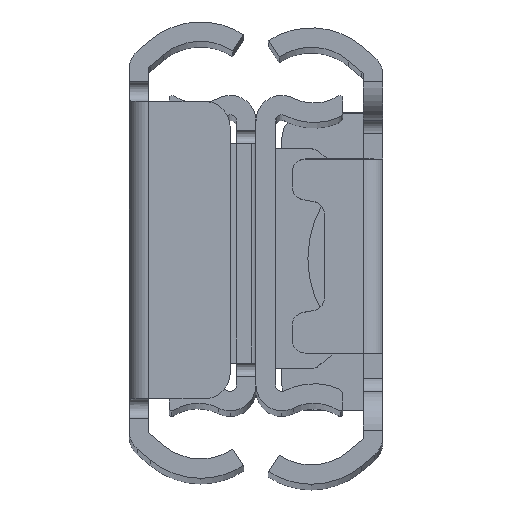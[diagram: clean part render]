
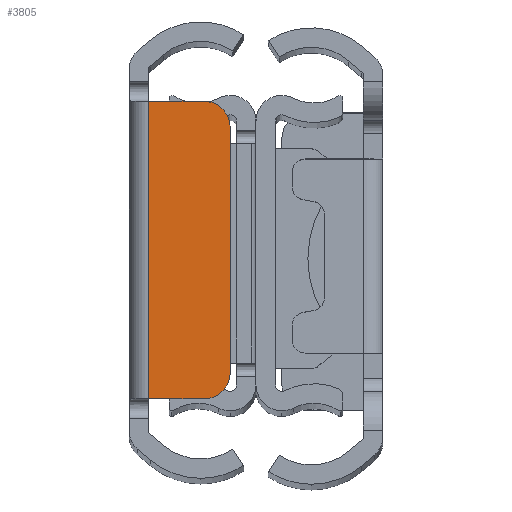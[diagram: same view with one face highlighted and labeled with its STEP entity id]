
A CAD part, top view. The second image highlights one B-rep face of the part: STEP entity #3805.
In plain terms, the highlighted planar face has unit normal (0, 0, 1) as drawn and (0, 0, -1) by its records, which use the part's own axes.
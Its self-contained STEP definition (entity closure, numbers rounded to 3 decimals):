
#42 = DIRECTION ( 'NONE',  ( 0., -1., 0. ) ) ;
#134 = ORIENTED_EDGE ( 'NONE', *, *, #3453, .F. ) ;
#241 = ORIENTED_EDGE ( 'NONE', *, *, #649, .F. ) ;
#295 = EDGE_CURVE ( 'NONE', #2466, #2607, #1052, .T. ) ;
#399 = CARTESIAN_POINT ( 'NONE',  ( 213.8, -11.5, 254. ) ) ;
#404 = CARTESIAN_POINT ( 'NONE',  ( 211.8, -9.5, 254. ) ) ;
#474 = DIRECTION ( 'NONE',  ( 0., 1., 0. ) ) ;
#521 = CARTESIAN_POINT ( 'NONE',  ( 213.8, 11.5, 254. ) ) ;
#649 = EDGE_CURVE ( 'NONE', #3173, #2916, #3469, .T. ) ;
#658 = DIRECTION ( 'NONE',  ( -1., 0., 0. ) ) ;
#813 = LINE ( 'NONE', #4660, #4733 ) ;
#900 = DIRECTION ( 'NONE',  ( 0., -1., 0. ) ) ;
#953 = LINE ( 'NONE', #2482, #4314 ) ;
#1052 = CIRCLE ( 'NONE', #3915, 2. ) ;
#1055 = EDGE_LOOP ( 'NONE', ( #134, #4556, #4369, #2152, #1961, #241 ) ) ;
#1181 = CARTESIAN_POINT ( 'NONE',  ( 219.6, -11.5, 254. ) ) ;
#1222 = CARTESIAN_POINT ( 'NONE',  ( 214.4, -13.74, 254. ) ) ;
#1513 = DIRECTION ( 'NONE',  ( 1., 0., 0. ) ) ;
#1579 = PLANE ( 'NONE',  #4074 ) ;
#1677 = DIRECTION ( 'NONE',  ( 0., 0., 1. ) ) ;
#1678 = EDGE_CURVE ( 'NONE', #2607, #2799, #3803, .T. ) ;
#1954 = CARTESIAN_POINT ( 'NONE',  ( 213.8, -9.5, 254. ) ) ;
#1961 = ORIENTED_EDGE ( 'NONE', *, *, #2936, .F. ) ;
#2018 = VECTOR ( 'NONE', #474, 1000. ) ;
#2152 = ORIENTED_EDGE ( 'NONE', *, *, #295, .F. ) ;
#2328 = DIRECTION ( 'NONE',  ( 0., -1., 0. ) ) ;
#2375 = CARTESIAN_POINT ( 'NONE',  ( 218.1, -13.74, 254. ) ) ;
#2444 = VERTEX_POINT ( 'NONE', #3132 ) ;
#2466 = VERTEX_POINT ( 'NONE', #404 ) ;
#2482 = CARTESIAN_POINT ( 'NONE',  ( 211.8, 11.5, 254. ) ) ;
#2607 = VERTEX_POINT ( 'NONE', #399 ) ;
#2635 = DIRECTION ( 'NONE',  ( 0., 0., 1. ) ) ;
#2675 = EDGE_CURVE ( 'NONE', #2799, #2444, #3868, .T. ) ;
#2799 = VERTEX_POINT ( 'NONE', #4415 ) ;
#2916 = VERTEX_POINT ( 'NONE', #4862 ) ;
#2936 = EDGE_CURVE ( 'NONE', #2916, #2466, #813, .T. ) ;
#3106 = DIRECTION ( 'NONE',  ( 0., -1., 0. ) ) ;
#3132 = CARTESIAN_POINT ( 'NONE',  ( 218.1, 11.5, 254. ) ) ;
#3173 = VERTEX_POINT ( 'NONE', #521 ) ;
#3316 = VECTOR ( 'NONE', #1513, 1000. ) ;
#3453 = EDGE_CURVE ( 'NONE', #2444, #3173, #953, .T. ) ;
#3469 = CIRCLE ( 'NONE', #3628, 2. ) ;
#3628 = AXIS2_PLACEMENT_3D ( 'NONE', #4293, #1677, #900 ) ;
#3803 = LINE ( 'NONE', #1181, #3316 ) ;
#3805 = ADVANCED_FACE ( 'NONE', ( #4643 ), #1579, .F. ) ;
#3868 = LINE ( 'NONE', #2375, #2018 ) ;
#3915 = AXIS2_PLACEMENT_3D ( 'NONE', #1954, #2635, #3106 ) ;
#4074 = AXIS2_PLACEMENT_3D ( 'NONE', #1222, #4600, #2328 ) ;
#4293 = CARTESIAN_POINT ( 'NONE',  ( 213.8, 9.5, 254. ) ) ;
#4314 = VECTOR ( 'NONE', #658, 1000. ) ;
#4369 = ORIENTED_EDGE ( 'NONE', *, *, #1678, .F. ) ;
#4415 = CARTESIAN_POINT ( 'NONE',  ( 218.1, -11.5, 254. ) ) ;
#4556 = ORIENTED_EDGE ( 'NONE', *, *, #2675, .F. ) ;
#4600 = DIRECTION ( 'NONE',  ( 0., 0., 1. ) ) ;
#4643 = FACE_OUTER_BOUND ( 'NONE', #1055, .T. ) ;
#4660 = CARTESIAN_POINT ( 'NONE',  ( 211.8, -11.5, 254. ) ) ;
#4733 = VECTOR ( 'NONE', #42, 1000. ) ;
#4862 = CARTESIAN_POINT ( 'NONE',  ( 211.8, 9.5, 254. ) ) ;
